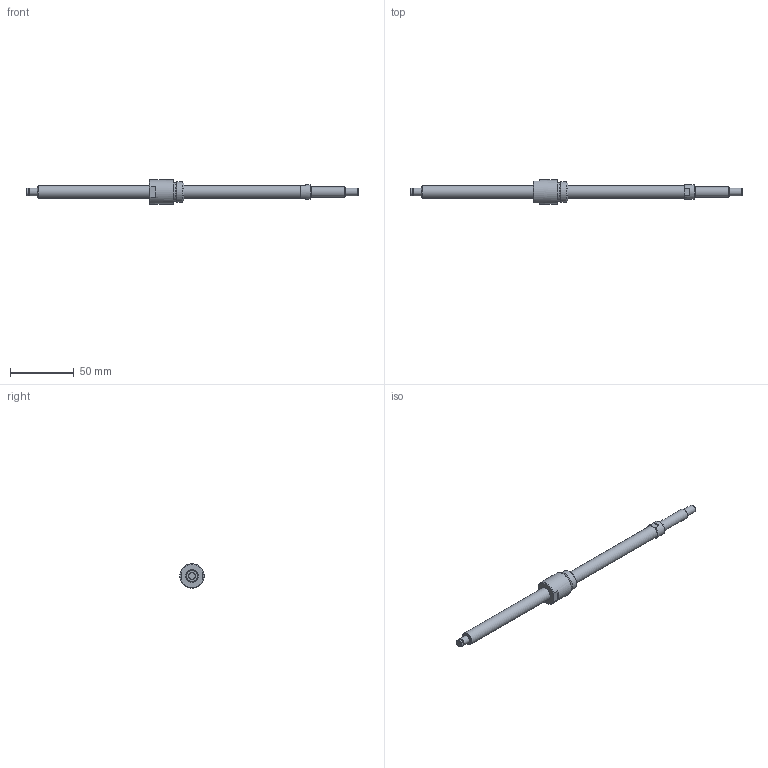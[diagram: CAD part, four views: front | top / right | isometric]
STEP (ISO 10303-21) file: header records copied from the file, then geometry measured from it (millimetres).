
FILE_DESCRIPTION(/* description */ ('STEP AP214'),/* implementation_level */ '2;1');
FILE_NAME(/* name */ 'NSG1002-202R260C5B0X(87.5)',/* time_stamp */ '2026-08-20T15:49:05+02:00',/* author */ ('License CC BY-ND 4.0'),/* organization */ ('CADENAS'),/* preprocessor_version */ 'ST-DEVELOPER v20',/* originating_system */ 'PARTsolutions',/* authorisation */ ' ');
FILE_SCHEMA (('AUTOMOTIVE_DESIGN {1 0 10303 214 3 1 1}'));
Length unit declared in the file: millimetre
Products named in the file (3): NSG1002-202R260C5B0X(87.5); NSG1002-202R260C3B_shaft; NSG1002_nut
Assembly tree (2 placements, depth 2):
  NSG1002-202R260C5B0X(87.5)
    NSG1002-202R260C3B_shaft
    NSG1002_nut
Bounding box: 260 x 19 x 19 mm (x, y, z)
Volume: 23568 mm3; surface area: 10752 mm2
Topology: 2 solids, 2 shells, 42 faces, 83 edges, 51 vertices
Faces by surface type: plane 20, cylinder 11, cone 10, torus 1
Full cylindrical faces by diameter (mm): 5.7 x1, 6 x3, 8 x1, 10 x2, 11.5 x1, 14.4 x1, 16 x1, 19 x1
Entity records: 1047 total; most frequent: DIRECTION 186, CARTESIAN_POINT 167, ORIENTED_EDGE 122, AXIS2_PLACEMENT_3D 84, EDGE_LOOP 70, FACE_BOUND 70, EDGE_CURVE 61, VERTEX_POINT 49
